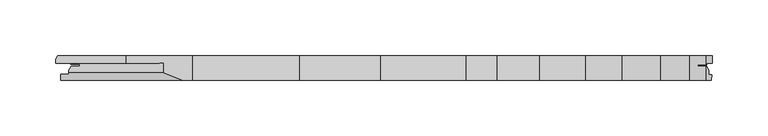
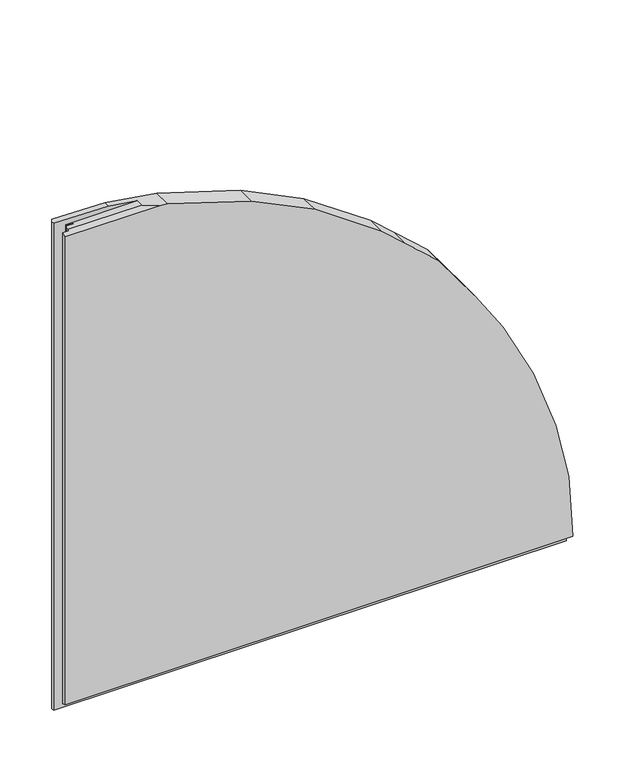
"""IFC4 building model written with IfcOpenShell, lengths in millimetres: plate geometry, Rockfon X CORNER 4 : Rockfon Blanka X."""

from ifc_helpers import new_model, si_unit, origin, place, context, project, spatial, faceted_brep, source, transform, mapped, element, save


def plate_2f8602be(model_context):
    return source(origin(), model_context, "Body", "Brep", [
        faceted_brep([(291.1455327, 22.0, 2.0258082), (-297.7999998, 22.0, 2.0258082), (-297.7999998, 22.0, 594.1232599), (-236.5102645, 22.0, 592.8040571), (-176.6180036, 22.0, 583.6814867), (-80.7746193, 22.0, 553.6097075), (-7.0238582, 22.0, 517.6232336), (69.3296907, 22.0, 464.2703497), (97.4960498, 22.0, 439.2302528), (135.8704211, 22.0, 405.1151593), (176.7257018, 22.0, 348.8016583), (209.689845, 22.0, 298.6934174), (244.7467243, 22.0, 229.4966915), (270.5015082, 22.0, 157.1959773), (285.706154, 22.0, 90.0326531), (-294.9999998, 0.0, 585.16), (-294.9999998, 0.0, 14.84), (290.3535348, 0.0, 14.84), (285.706154, 0.0, 90.0326531), (270.5015082, 0.0, 157.1959773), (244.7467243, 0.0, 229.4966915), (209.689845, 0.0, 298.6934174), (176.7257018, 0.0, 348.8016583), (135.8704211, 0.0, 405.1151593), (97.4960498, 0.0, 439.2302528), (69.3296907, 0.0, 464.2703497), (-7.0238582, 0.0, 517.6232336), (-80.7746193, 0.0, 553.6097075), (-176.6180036, 0.0, 583.6814867), (-186.3248627, 0.0, 585.16), (-287.9499998, 5.0, 12.8198689), (-294.9999998, 5.0, 12.8198689), (-294.9999998, 5.0, 587.1801311), (-287.9499998, 5.0, 587.1801311), (-203.0663355, 6.3114715, 587.71), (-287.9499998, 6.3114715, 587.71), (-286.0499998, 15.0, 587.71), (-286.0499998, 14.0, 587.71), (-278.0499998, 14.0, 587.71), (-278.0499998, 12.5, 587.71), (-285.9499998, 12.5, 587.71), (-287.9499998, 9.0, 587.71), (-203.0663355, 15.0, 587.71), (-286.0499998, 15.0, 12.29), (286.049346, 15.0, 12.29), (286.049346, 14.0, 12.29), (278.049346, 14.0, 12.29), (278.049346, 12.5, 12.29), (285.949346, 12.5, 12.29), (287.949346, 9.0, 12.29), (287.949346, 6.3114715, 12.29), (-287.9499998, 6.3114715, 12.29), (-287.9499998, 9.0, 12.29), (-285.9499998, 12.5, 12.29), (-278.0499998, 12.5, 12.29), (-278.0499998, 14.0, 12.29), (-286.0499998, 14.0, 12.29), (287.949346, 5.0, 12.8198689), (290.4783916, 5.0, 12.8198689), (-299.6421135, 18.8549279, 0.21), (291.2577611, 18.8549279, 0.21), (-299.8499998, 18.5, 0.21), (291.2577611, 15.0, 0.21), (-299.8499998, 15.0, 0.21), (-299.8499998, 18.5, 594.1673841), (-299.8499998, 15.0, 594.1673841), (-236.5102645, 15.0, 592.8040571), (286.049346, 15.0, 84.4799515), (287.949346, 5.0, 53.7387561), (287.949346, 9.0, 53.7387561), (285.949346, 12.5, 86.0979091), (278.049346, 12.5, 123.8549916), (285.706154, 12.5, 90.0326531), (278.049346, 14.0, 123.8549916), (286.049346, 14.0, 84.4799515), (285.706154, 14.0, 90.0326531)], [[[0, 1, 2, 3, 4, 5, 6, 7, 8, 9, 10, 11, 12, 13, 14]], [[15, 16, 17, 18, 19, 20, 21, 22, 23, 24, 25, 26, 27, 28, 29]], [[30, 31, 32, 33]], [[33, 32, 15, 29, 34, 35]], [[36, 37, 38, 39, 40, 41, 35, 34, 42]], [[43, 44, 45, 46, 47, 48, 49, 50, 51, 52, 53, 54, 55, 56]], [[51, 50, 57, 58, 17, 16, 31, 30]], [[59, 1, 0, 60]], [[61, 59, 60, 62, 63]], [[1, 59, 61, 64, 2]], [[61, 63, 65, 64]], [[44, 43, 36, 42, 66, 65, 63, 62, 67]], [[43, 56, 37, 36]], [[56, 55, 38, 37]], [[55, 54, 39, 38]], [[54, 53, 40, 39]], [[53, 52, 41, 40]], [[52, 51, 30, 33, 35, 41]], [[31, 16, 15, 32]], [[58, 57, 68]], [[50, 49, 69, 68, 57]], [[49, 48, 70, 69]], [[48, 47, 71, 72, 70]], [[47, 46, 73, 71]], [[46, 45, 74, 75, 73]], [[45, 44, 67, 74]], [[66, 3, 2, 64, 65]], [[4, 28, 27, 5]], [[6, 26, 25, 7]], [[9, 23, 22, 10]], [[12, 20, 19, 13]], [[72, 18, 17, 58, 68, 69, 70]], [[14, 75, 74, 67, 62, 60, 0]], [[28, 4, 3, 66, 42, 34, 29]], [[26, 6, 5, 27]], [[23, 9, 8, 24]], [[10, 22, 21, 11]], [[20, 12, 11, 21]], [[18, 72, 71, 73, 75, 14, 13, 19]], [[24, 8, 7, 25]]]),
    ])


if __name__ == "__main__":
    model = new_model("IFC4")
    model_context = context("Model", 3, world=origin())
    ifc_project = project(units=[si_unit("LENGTHUNIT", "METRE", prefix="MILLI")], contexts=[model_context])
    site = spatial("IfcSite", under=ifc_project)
    building = spatial("IfcBuilding", under=site)
    placement = place(None, origin())
    plate_shape = plate_2f8602be(model_context)
    element("IfcPlate", 1, ObjectType="Rockfon X CORNER 4 : Rockfon Blanka X", at=placement, inside=building, context=model_context, shape_type="MappedRepresentation", body=[
        mapped(plate_shape, transform((0.0, 0.0, 0.0), x_axis=(1.0, 0.0, 0.0), y_axis=(0.0, 1.0, 0.0), z_axis=(0.0, 0.0, 1.0))),
    ])
    save(model, "model.ifc")
